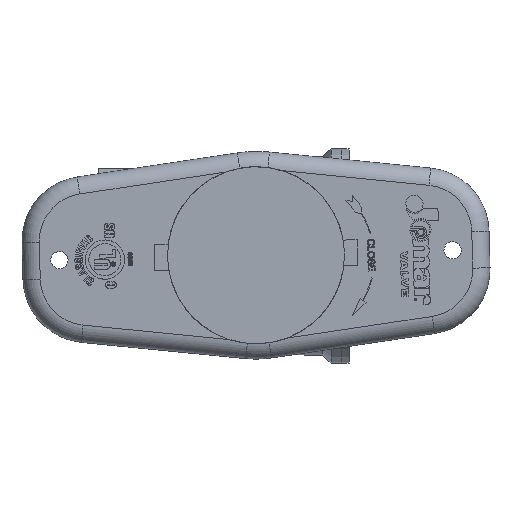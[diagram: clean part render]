
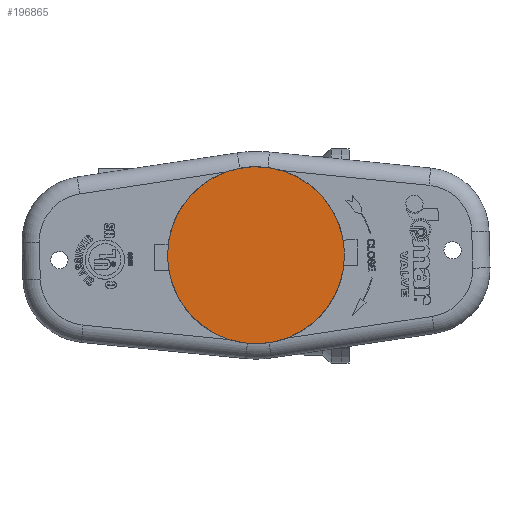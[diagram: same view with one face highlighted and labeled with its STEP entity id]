
A CAD part, top view. The second image highlights one B-rep face of the part: STEP entity #196865.
In plain terms, the highlighted planar face has unit normal (0, 0, 1).
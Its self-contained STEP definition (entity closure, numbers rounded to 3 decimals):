
#196657 = CYLINDRICAL_SURFACE('',#196658,0.669);
#196658 = AXIS2_PLACEMENT_3D('',#196659,#196660,#196661);
#196659 = CARTESIAN_POINT('',(1.16,-2.231,
    1.726));
#196660 = DIRECTION('',(0.,0.,-1.));
#196661 = DIRECTION('',(-0.025,1.,
    0.));
#196732 = VERTEX_POINT('',#196733);
#196733 = CARTESIAN_POINT('',(1.143,-1.561,
    1.726));
#196753 = EDGE_CURVE('',#196732,#196732,#196754,.T.);
#196754 = SURFACE_CURVE('',#196755,(#196760,#196767),.PCURVE_S1.);
#196755 = CIRCLE('',#196756,0.669);
#196756 = AXIS2_PLACEMENT_3D('',#196757,#196758,#196759);
#196757 = CARTESIAN_POINT('',(1.16,-2.231,
    1.726));
#196758 = DIRECTION('',(0.,0.,1.));
#196759 = DIRECTION('',(-0.025,1.,
    0.));
#196760 = PCURVE('',#196657,#196761);
#196761 = DEFINITIONAL_REPRESENTATION('',(#196762),#196766);
#196762 = LINE('',#196763,#196764);
#196763 = CARTESIAN_POINT('',(6.283,0.));
#196764 = VECTOR('',#196765,1.);
#196765 = DIRECTION('',(-1.,0.));
#196766 = ( GEOMETRIC_REPRESENTATION_CONTEXT(2) 
PARAMETRIC_REPRESENTATION_CONTEXT() REPRESENTATION_CONTEXT('2D SPACE',''
  ) );
#196767 = PCURVE('',#196768,#196773);
#196768 = PLANE('',#196769);
#196769 = AXIS2_PLACEMENT_3D('',#196770,#196771,#196772);
#196770 = CARTESIAN_POINT('',(1.16,-2.231,
    1.726));
#196771 = DIRECTION('',(0.,0.,1.));
#196772 = DIRECTION('',(-0.025,1.,
    0.));
#196773 = DEFINITIONAL_REPRESENTATION('',(#196774),#196778);
#196774 = CIRCLE('',#196775,0.669);
#196775 = AXIS2_PLACEMENT_2D('',#196776,#196777);
#196776 = CARTESIAN_POINT('',(0.,0.));
#196777 = DIRECTION('',(1.,0.));
#196778 = ( GEOMETRIC_REPRESENTATION_CONTEXT(2) 
PARAMETRIC_REPRESENTATION_CONTEXT() REPRESENTATION_CONTEXT('2D SPACE',''
  ) );
#196865 = ADVANCED_FACE('',(#196866),#196768,.T.);
#196866 = FACE_BOUND('',#196867,.T.);
#196867 = EDGE_LOOP('',(#196868));
#196868 = ORIENTED_EDGE('',*,*,#196753,.T.);
